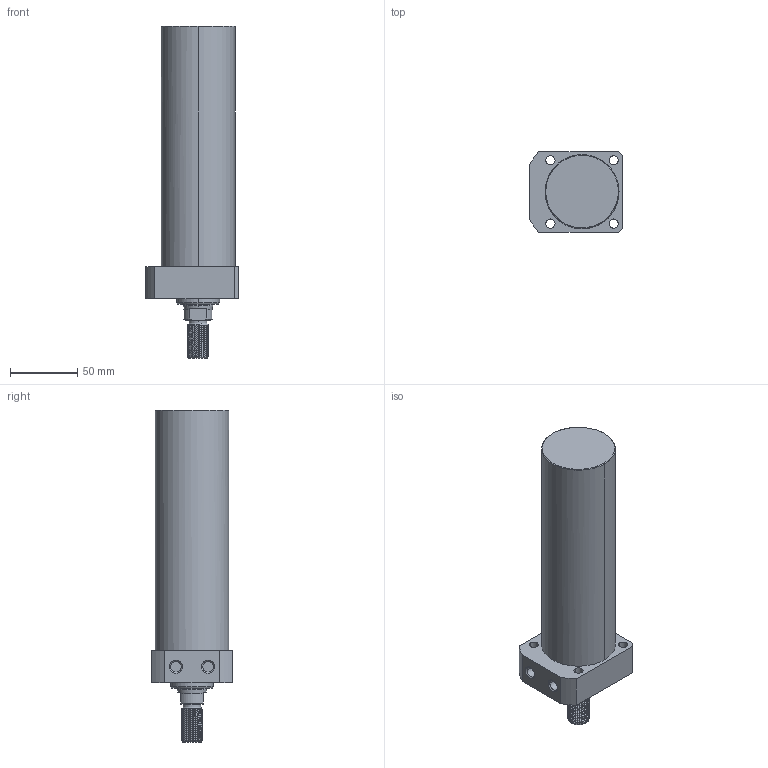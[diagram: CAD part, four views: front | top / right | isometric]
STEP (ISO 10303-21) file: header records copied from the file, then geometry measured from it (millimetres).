
FILE_DESCRIPTION((' '),'2;1');
FILE_NAME( 'TLLR-055CT-150.STEP.stp', '2025-10-24T16:34:50', (' '), ('--- Datakit www.datakit.com---'), ' Datakit CrossCadWare V2024.1 Dec 21 2023', 'Mastercam 2025', ' ');
FILE_SCHEMA(('AUTOMOTIVE_DESIGN { 1 0 10303 214 1 1 1 1 }'));
Length unit declared in the file: millimetre
Products named in the file (1): TLLR-055CT-150
Bounding box: 69 x 60 x 247 mm (x, y, z)
Volume: 530049.6 mm3; surface area: 50691.6 mm2
Topology: 1 solids, 1 shells, 101 faces, 356 edges, 265 vertices
Faces by surface type: cylinder 61, plane 20, cone 16, bspline 2, torus 2
Entity records: 10894 total; most frequent: CARTESIAN_POINT 7814, ORIENTED_EDGE 712, DIRECTION 516, EDGE_CURVE 356, VERTEX_POINT 265, AXIS2_PLACEMENT_3D 209, B_SPLINE_CURVE_WITH_KNOTS 149, EDGE_LOOP 117
